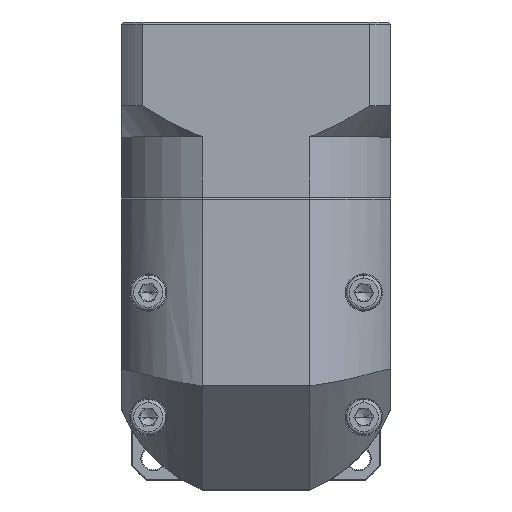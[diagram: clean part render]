
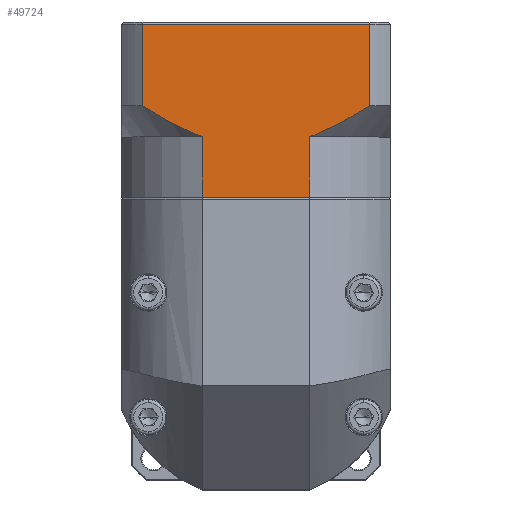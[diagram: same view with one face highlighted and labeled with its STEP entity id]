
A CAD part, top view. The second image highlights one B-rep face of the part: STEP entity #49724.
In plain terms, the highlighted planar face has unit normal (0, 0, 1).
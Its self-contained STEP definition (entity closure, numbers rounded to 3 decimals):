
#5159 = CARTESIAN_POINT ( 'NONE',  ( -85.583, 114.682, 62.31 ) ) ;
#5994 = VERTEX_POINT ( 'NONE', #53338 ) ;
#6305 = PLANE ( 'NONE',  #106704 ) ;
#7247 = FACE_OUTER_BOUND ( 'NONE', #41534, .T. ) ;
#10803 = EDGE_CURVE ( 'NONE', #24594, #5994, #66954, .T. ) ;
#12134 = EDGE_CURVE ( 'NONE', #96490, #35951, #60948, .T. ) ;
#13670 = CARTESIAN_POINT ( 'NONE',  ( -85.583, 115.182, 62.31 ) ) ;
#15541 = CARTESIAN_POINT ( 'NONE',  ( -40.093, 87.482, 62.31 ) ) ;
#16912 = VERTEX_POINT ( 'NONE', #69543 ) ;
#17459 = EDGE_CURVE ( 'NONE', #54979, #62425, #38877, .T. ) ;
#17928 = CARTESIAN_POINT ( 'NONE',  ( -25.697, 114.682, 62.31 ) ) ;
#22145 = VERTEX_POINT ( 'NONE', #104389 ) ;
#23280 = CARTESIAN_POINT ( 'NONE',  ( -33.86, 90.228, 62.31 ) ) ;
#24173 = LINE ( 'NONE', #37207, #88127 ) ;
#24594 = VERTEX_POINT ( 'NONE', #17928 ) ;
#25819 = EDGE_CURVE ( 'NONE', #96490, #16912, #47933, .T. ) ;
#31791 = CARTESIAN_POINT ( 'NONE',  ( -35.072, 89.623, 62.31 ) ) ;
#33926 = CARTESIAN_POINT ( 'NONE',  ( -40.093, 72.982, 62.31 ) ) ;
#35951 = VERTEX_POINT ( 'NONE', #80739 ) ;
#37207 = CARTESIAN_POINT ( 'NONE',  ( -66.073, 87.482, 62.31 ) ) ;
#38877 = LINE ( 'NONE', #105533, #93027 ) ;
#41534 = EDGE_LOOP ( 'NONE', ( #64907, #53880, #41618, #103535, #42639, #58910, #105013, #56142 ) ) ;
#41618 = ORIENTED_EDGE ( 'NONE', *, *, #12134, .F. ) ;
#41797 = EDGE_CURVE ( 'NONE', #54979, #16912, #24173, .T. ) ;
#42639 = ORIENTED_EDGE ( 'NONE', *, *, #41797, .F. ) ;
#43291 = VECTOR ( 'NONE', #101155, 1000. ) ;
#45375 = CARTESIAN_POINT ( 'NONE',  ( -71.063, 89.569, 62.31 ) ) ;
#47898 = DIRECTION ( 'NONE',  ( 0., -1., 0. ) ) ;
#47933 = B_SPLINE_CURVE_WITH_KNOTS ( 'NONE', 3,
 ( #107488, #81178, #107111, #80791, #62887, #45375, #99012, #61712 ),
 .UNSPECIFIED., .F., .F.,
 ( 4, 2, 2, 4 ),
 ( 0.058, 0.062, 0.066, 0.074 ),
 .UNSPECIFIED. ) ;
#48047 = VECTOR ( 'NONE', #47898, 1000. ) ;
#48433 = EDGE_CURVE ( 'NONE', #22145, #5994, #105590, .T. ) ;
#49624 = CARTESIAN_POINT ( 'NONE',  ( -39.451, 87.72, 62.31 ) ) ;
#49724 = ADVANCED_FACE ( 'NONE', ( #7247 ), #6305, .F. ) ;
#53338 = CARTESIAN_POINT ( 'NONE',  ( -25.697, 94.982, 62.31 ) ) ;
#53880 = ORIENTED_EDGE ( 'NONE', *, *, #92371, .T. ) ;
#54979 = VERTEX_POINT ( 'NONE', #97330 ) ;
#56142 = ORIENTED_EDGE ( 'NONE', *, *, #48433, .T. ) ;
#58910 = ORIENTED_EDGE ( 'NONE', *, *, #17459, .T. ) ;
#59432 = LINE ( 'NONE', #5159, #102604 ) ;
#59684 = CARTESIAN_POINT ( 'NONE',  ( -30.279, 92.133, 62.31 ) ) ;
#60063 = DIRECTION ( 'NONE',  ( 1., 0., 0. ) ) ;
#60948 = LINE ( 'NONE', #105677, #99892 ) ;
#61712 = CARTESIAN_POINT ( 'NONE',  ( -66.073, 87.482, 62.31 ) ) ;
#62425 = VERTEX_POINT ( 'NONE', #33926 ) ;
#62887 = CARTESIAN_POINT ( 'NONE',  ( -74.659, 91.479, 62.31 ) ) ;
#64566 = EDGE_CURVE ( 'NONE', #22145, #62425, #107751, .T. ) ;
#64907 = ORIENTED_EDGE ( 'NONE', *, *, #10803, .F. ) ;
#65328 = CARTESIAN_POINT ( 'NONE',  ( -80.469, 94.982, 62.31 ) ) ;
#66768 = DIRECTION ( 'NONE',  ( 0., 0., -1. ) ) ;
#66954 = LINE ( 'NONE', #108874, #43291 ) ;
#68241 = CARTESIAN_POINT ( 'NONE',  ( -25.697, 94.982, 62.31 ) ) ;
#69033 = CARTESIAN_POINT ( 'NONE',  ( -36.926, 88.772, 62.31 ) ) ;
#69543 = CARTESIAN_POINT ( 'NONE',  ( -66.073, 87.482, 62.31 ) ) ;
#76467 = CARTESIAN_POINT ( 'NONE',  ( -38.812, 87.973, 62.31 ) ) ;
#76871 = DIRECTION ( 'NONE',  ( 0., 1., 0. ) ) ;
#80739 = CARTESIAN_POINT ( 'NONE',  ( -80.469, 114.682, 62.31 ) ) ;
#80791 = CARTESIAN_POINT ( 'NONE',  ( -75.845, 92.149, 62.31 ) ) ;
#81178 = CARTESIAN_POINT ( 'NONE',  ( -79.331, 94.248, 62.31 ) ) ;
#85404 = CARTESIAN_POINT ( 'NONE',  ( -37.55, 88.498, 62.31 ) ) ;
#88127 = VECTOR ( 'NONE', #108588, 1000. ) ;
#92371 = EDGE_CURVE ( 'NONE', #24594, #35951, #59432, .T. ) ;
#93027 = VECTOR ( 'NONE', #60063, 1000. ) ;
#96490 = VERTEX_POINT ( 'NONE', #65328 ) ;
#97330 = CARTESIAN_POINT ( 'NONE',  ( -66.073, 72.982, 62.31 ) ) ;
#99012 = CARTESIAN_POINT ( 'NONE',  ( -68.611, 88.424, 62.31 ) ) ;
#99892 = VECTOR ( 'NONE', #113768, 1000. ) ;
#101155 = DIRECTION ( 'NONE',  ( 0., -1., 0. ) ) ;
#102604 = VECTOR ( 'NONE', #112087, 1000. ) ;
#103535 = ORIENTED_EDGE ( 'NONE', *, *, #25819, .T. ) ;
#104389 = CARTESIAN_POINT ( 'NONE',  ( -40.093, 87.482, 62.31 ) ) ;
#105013 = ORIENTED_EDGE ( 'NONE', *, *, #64566, .F. ) ;
#105533 = CARTESIAN_POINT ( 'NONE',  ( -85.583, 72.982, 62.31 ) ) ;
#105590 = B_SPLINE_CURVE_WITH_KNOTS ( 'NONE', 3,
 ( #15541, #49624, #76467, #85404, #69033, #31791, #23280, #59684, #111690, #68241 ),
 .UNSPECIFIED., .F., .F.,
 ( 4, 2, 2, 2, 4 ),
 ( 0.101, 0.103, 0.105, 0.109, 0.117 ),
 .UNSPECIFIED. ) ;
#105677 = CARTESIAN_POINT ( 'NONE',  ( -80.469, 87.482, 62.31 ) ) ;
#106704 = AXIS2_PLACEMENT_3D ( 'NONE', #13670, #66768, #76871 ) ;
#107111 = CARTESIAN_POINT ( 'NONE',  ( -78.18, 93.533, 62.31 ) ) ;
#107488 = CARTESIAN_POINT ( 'NONE',  ( -80.469, 94.982, 62.31 ) ) ;
#107751 = LINE ( 'NONE', #108878, #48047 ) ;
#108588 = DIRECTION ( 'NONE',  ( 0., 1., 0. ) ) ;
#108874 = CARTESIAN_POINT ( 'NONE',  ( -25.697, 87.482, 62.31 ) ) ;
#108878 = CARTESIAN_POINT ( 'NONE',  ( -40.093, 87.482, 62.31 ) ) ;
#111690 = CARTESIAN_POINT ( 'NONE',  ( -27.965, 93.52, 62.31 ) ) ;
#112087 = DIRECTION ( 'NONE',  ( -1., 0., 0. ) ) ;
#113768 = DIRECTION ( 'NONE',  ( 0., 1., 0. ) ) ;
